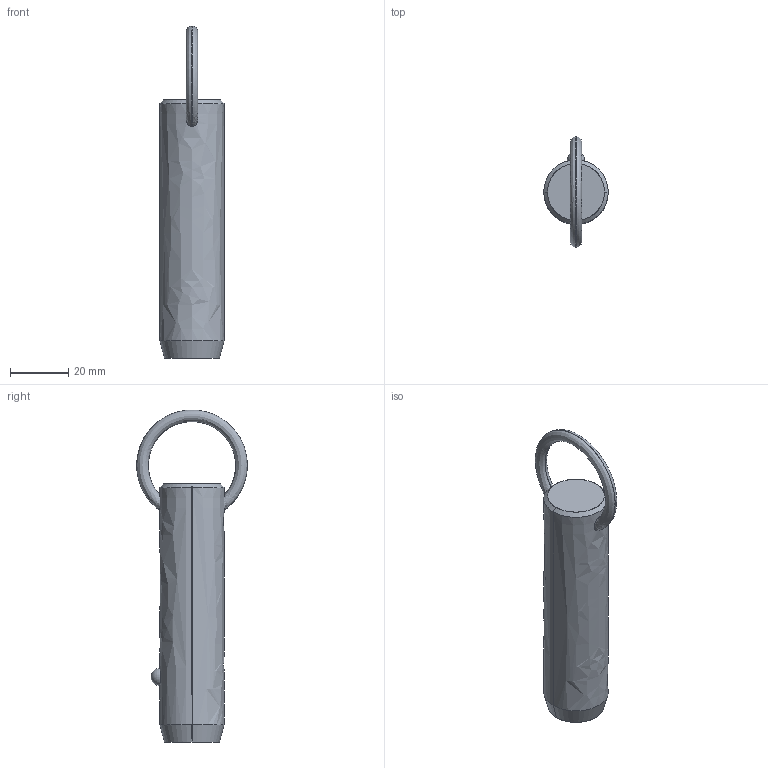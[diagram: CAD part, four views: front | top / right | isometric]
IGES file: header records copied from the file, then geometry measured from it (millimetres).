
Start section: SolidWorks IGES file using analytic representation for surfaces
Global section: file name: C:\Users\liam_\OneDrive\Documents\WORK\Work for WixRoyd\Job Files\J-00019 - Matt Davis CAD Checking\04. CAD Drawings\automotion20190605\P1250.2_v2\P1250.2_v2_20190729_IGES\P1250.087-200.igs; native system: SolidWorks 2017; preprocessor: SolidWorks 2017; author: liam_; date: 190730.000622; units: millimetre
Bounding box: 22.2 x 38.05 x 114.29 mm (x, y, z)
Surface area: 7843.9 mm2 (no closed solid volume)
Topology: 0 solids, 0 shells, 12 faces, 302 edges, 300 vertices
Faces by surface type: revolution 8, bspline 4
